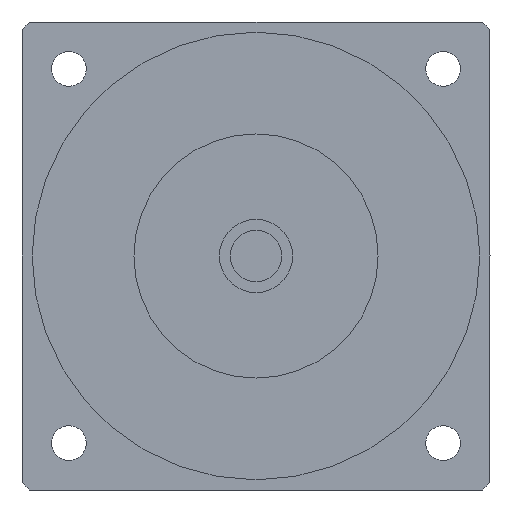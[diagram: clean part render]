
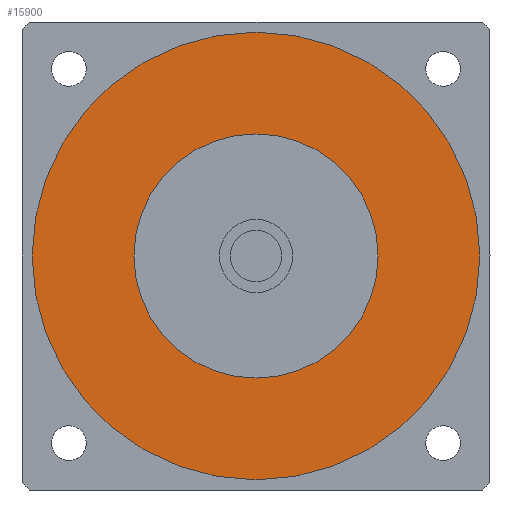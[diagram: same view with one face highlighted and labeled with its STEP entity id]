
A CAD part, left-side view. The second image highlights one B-rep face of the part: STEP entity #15900.
In plain terms, the highlighted planar face has unit normal (-1, 0, 0) as drawn and (0, 0, -1) by its records, which use the part's own axes.
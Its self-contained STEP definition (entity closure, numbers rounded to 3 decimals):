
#15320=CARTESIAN_POINT('',(55.,0.,-42.9));
#15330=VERTEX_POINT('',#15320);
#15420=CARTESIAN_POINT('',(-55.,0.,-42.9));
#15430=VERTEX_POINT('',#15420);
#15460=CARTESIAN_POINT('',(0.,0.,
-42.9));
#15470=DIRECTION('',(0.,0.,1.));
#15480=DIRECTION('',(0.,1.,0.));
#15490=AXIS2_PLACEMENT_3D('',#15460,#15470,#15480);
#15500=CIRCLE('',#15490,55.);
#15510=CARTESIAN_POINT('',(0.,55.,-42.9));
#15520=VERTEX_POINT('',#15510);
#15530=EDGE_CURVE('',#15520,#15430,#15500,.T.);
#15550=EDGE_CURVE('',#15330,#15520,#15500,.T.);
#15600=CARTESIAN_POINT('',(0.,0.,
-42.9));
#15610=DIRECTION('',(0.,0.,1.));
#15620=DIRECTION('',(-1.,0.,0.));
#15630=AXIS2_PLACEMENT_3D('',#15600,#15610,#15620);
#15640=PLANE('',#15630);
#15650=ORIENTED_EDGE('',*,*,#15530,.F.);
#15660=EDGE_CURVE('',#15430,#15330,#15500,.T.);
#15670=ORIENTED_EDGE('',*,*,#15660,.F.);
#15680=ORIENTED_EDGE('',*,*,#15550,.F.);
#15690=EDGE_LOOP('',(#15680,#15670,#15650));
#15700=FACE_OUTER_BOUND('',#15690,.T.);
#15710=CARTESIAN_POINT('',(0.,0.,
-42.9));
#15720=DIRECTION('',(0.,0.,1.));
#15730=DIRECTION('',(0.,1.,0.));
#15740=AXIS2_PLACEMENT_3D('',#15710,#15720,#15730);
#15750=CIRCLE('',#15740,30.);
#15760=CARTESIAN_POINT('',(-30.,0.,-42.9));
#15770=VERTEX_POINT('',#15760);
#15780=CARTESIAN_POINT('',(30.,0.,-42.9));
#15790=VERTEX_POINT('',#15780);
#15800=EDGE_CURVE('',#15770,#15790,#15750,.T.);
#15810=ORIENTED_EDGE('',*,*,#15800,.T.);
#15820=CARTESIAN_POINT('',(0.,30.,-42.9));
#15830=VERTEX_POINT('',#15820);
#15840=EDGE_CURVE('',#15830,#15770,#15750,.T.);
#15850=ORIENTED_EDGE('',*,*,#15840,.T.);
#15860=EDGE_CURVE('',#15790,#15830,#15750,.T.);
#15870=ORIENTED_EDGE('',*,*,#15860,.T.);
#15880=EDGE_LOOP('',(#15870,#15850,#15810));
#15890=FACE_BOUND('',#15880,.T.);
#15900=ADVANCED_FACE('',(#15700,#15890),#15640,.F.);
